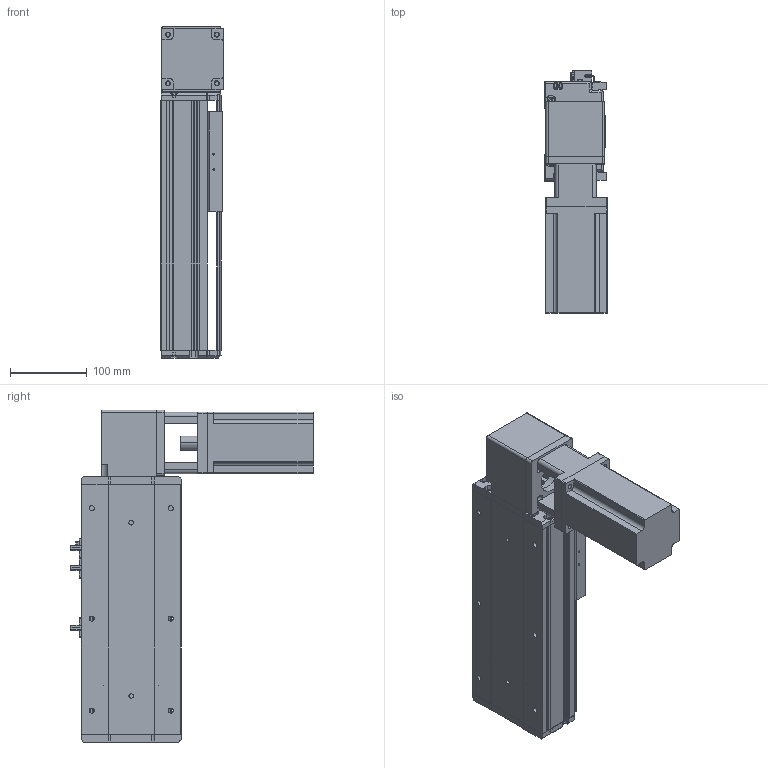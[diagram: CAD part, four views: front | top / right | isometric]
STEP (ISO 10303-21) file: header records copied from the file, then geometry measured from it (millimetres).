
FILE_DESCRIPTION (( 'STEP AP214' ), '1' );
FILE_NAME ('KSD130B-S100-MLT-CM.STEP', '2019-09-23T02:09:03', ( '微软用户' ), ( '微软中国' ), 'SwSTEP 2.0', 'SolidWorks 2014', '' );
FILE_SCHEMA (( 'AUTOMOTIVE_DESIGN' ));
Length unit declared in the file: millimetre
Products named in the file (12): 130宽安装板同步带带电机座750W; 130宽盖板半封闭同步带-100行程; 130宽马达安装板同步带左-改; 130宽马达安装板同步带半封闭; 130宽同步带安装座半封闭; 130宽端盖同步带半封闭; 130宽底板半封闭同步带-100行程; KSD130B-S100-MLT-CM; 台达ECMA－C20807AS伺服电机; 130宽马达安装板1-带电机座750W（1）; 覜茼え100遵圉猾敕; U倰嫖萇EEㄜSX672
Assembly tree (13 placements, depth 2):
  KSD130B-S100-MLT-CM
    130宽底板半封闭同步带-100行程
    130宽端盖同步带半封闭
    130宽同步带安装座半封闭
    130宽马达安装板同步带半封闭
    130宽马达安装板同步带左-改
    130宽盖板半封闭同步带-100行程
    130宽安装板同步带带电机座750W
    U倰嫖萇EEㄜSX672  x3
    覜茼え100遵圉猾敕
    130宽马达安装板1-带电机座750W（1）
    台达ECMA－C20807AS伺服电机
Bounding box: 81 x 316 x 433 mm (x, y, z)
Volume: 2536048.4 mm3; surface area: 567670.2 mm2
Topology: 14 solids, 14 shells, 1297 faces, 3592 edges, 2321 vertices
Faces by surface type: cylinder 599, plane 577, cone 121
Entity records: 40307 total; most frequent: CARTESIAN_POINT 6955, DIRECTION 6238, ORIENTED_EDGE 5940, EDGE_CURVE 2970, AXIS2_PLACEMENT_3D 2256, VERTEX_POINT 1945, VECTOR 1726, LINE 1726
